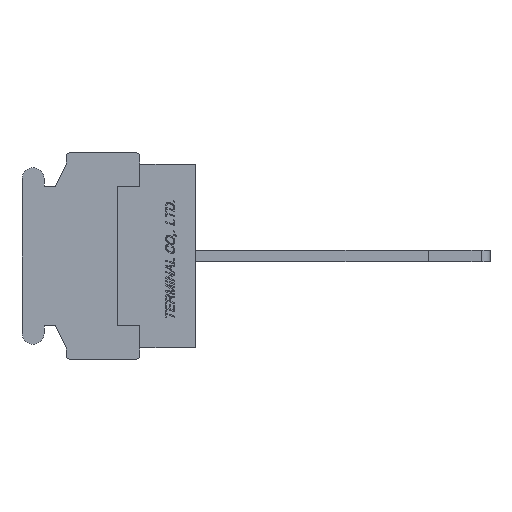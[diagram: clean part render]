
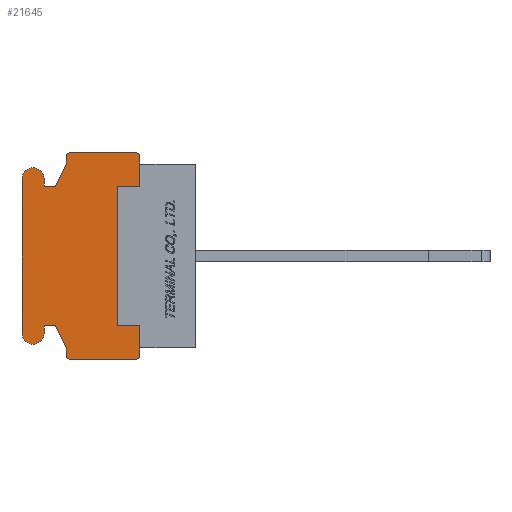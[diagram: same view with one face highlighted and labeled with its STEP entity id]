
A CAD part, left-side view. The second image highlights one B-rep face of the part: STEP entity #21645.
In plain terms, the highlighted planar face has unit normal (-1, 0, 0).
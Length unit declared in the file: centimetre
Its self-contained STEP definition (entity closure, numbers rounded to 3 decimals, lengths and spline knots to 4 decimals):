
#1114=CIRCLE('',#36409,0.02);
#1115=CIRCLE('',#36413,0.02);
#1116=CIRCLE('',#36416,0.02);
#1117=CIRCLE('',#36422,0.075);
#1118=CIRCLE('',#36425,0.075);
#1119=CIRCLE('',#36431,0.02);
#2934=VERTEX_POINT('',#33503);
#2935=VERTEX_POINT('',#33505);
#2936=VERTEX_POINT('',#33509);
#2937=VERTEX_POINT('',#33513);
#2938=VERTEX_POINT('',#33515);
#2939=VERTEX_POINT('',#33519);
#2940=VERTEX_POINT('',#33523);
#2941=VERTEX_POINT('',#33527);
#2942=VERTEX_POINT('',#33531);
#2943=VERTEX_POINT('',#33535);
#2944=VERTEX_POINT('',#33539);
#2945=VERTEX_POINT('',#33543);
#2946=VERTEX_POINT('',#33547);
#2947=VERTEX_POINT('',#33551);
#2948=VERTEX_POINT('',#33555);
#2949=VERTEX_POINT('',#33559);
#2950=VERTEX_POINT('',#33563);
#2951=VERTEX_POINT('',#33567);
#2952=VERTEX_POINT('',#33571);
#2953=VERTEX_POINT('',#33575);
#2954=VERTEX_POINT('',#33581);
#2955=VERTEX_POINT('',#33583);
#2956=VERTEX_POINT('',#33585);
#2957=VERTEX_POINT('',#33587);
#5280=VECTOR('',#26617,1.);
#5282=VECTOR('',#26620,1.);
#5286=VECTOR('',#26629,1.);
#5289=VECTOR('',#26637,1.);
#5291=VECTOR('',#26640,1.);
#5293=VECTOR('',#26643,1.);
#5295=VECTOR('',#26646,1.);
#5298=VECTOR('',#26654,1.);
#5301=VECTOR('',#26662,1.);
#5303=VECTOR('',#26665,1.);
#5305=VECTOR('',#26668,1.);
#5307=VECTOR('',#26671,1.);
#5309=VECTOR('',#26678,1.);
#5310=VECTOR('',#26680,1.);
#5311=VECTOR('',#26681,1.);
#5312=VECTOR('',#26682,1.);
#5313=VECTOR('',#26683,1.);
#5314=VECTOR('',#26684,1.);
#7704=LINE('',#33510,#5280);
#7706=LINE('',#33514,#5282);
#7710=LINE('',#33524,#5286);
#7713=LINE('',#33532,#5289);
#7715=LINE('',#33536,#5291);
#7717=LINE('',#33540,#5293);
#7719=LINE('',#33544,#5295);
#7722=LINE('',#33552,#5298);
#7725=LINE('',#33560,#5301);
#7727=LINE('',#33564,#5303);
#7729=LINE('',#33568,#5305);
#7731=LINE('',#33572,#5307);
#7733=LINE('',#33578,#5309);
#7734=LINE('',#33580,#5310);
#7735=LINE('',#33582,#5311);
#7736=LINE('',#33584,#5312);
#7737=LINE('',#33586,#5313);
#7738=LINE('',#33588,#5314);
#10880=EDGE_CURVE('',#2934,#2935,#1114,.T.);
#10883=EDGE_CURVE('',#2936,#2934,#7704,.T.);
#10885=EDGE_CURVE('',#2937,#2938,#7706,.T.);
#10888=EDGE_CURVE('',#2939,#2937,#1115,.T.);
#10890=EDGE_CURVE('',#2940,#2939,#7710,.T.);
#10892=EDGE_CURVE('',#2941,#2940,#1116,.T.);
#10894=EDGE_CURVE('',#2942,#2941,#7713,.T.);
#10896=EDGE_CURVE('',#2943,#2942,#7715,.T.);
#10898=EDGE_CURVE('',#2944,#2943,#7717,.T.);
#10900=EDGE_CURVE('',#2945,#2944,#7719,.T.);
#10902=EDGE_CURVE('',#2946,#2945,#1117,.T.);
#10904=EDGE_CURVE('',#2947,#2946,#7722,.T.);
#10906=EDGE_CURVE('',#2948,#2947,#1118,.T.);
#10908=EDGE_CURVE('',#2949,#2948,#7725,.T.);
#10910=EDGE_CURVE('',#2950,#2949,#7727,.T.);
#10912=EDGE_CURVE('',#2951,#2950,#7729,.T.);
#10914=EDGE_CURVE('',#2952,#2951,#7731,.T.);
#10916=EDGE_CURVE('',#2953,#2952,#1119,.T.);
#10917=EDGE_CURVE('',#2935,#2953,#7733,.T.);
#10918=EDGE_CURVE('',#2954,#2938,#7734,.T.);
#10919=EDGE_CURVE('',#2936,#2955,#7735,.T.);
#10920=EDGE_CURVE('',#2955,#2956,#7736,.T.);
#10921=EDGE_CURVE('',#2956,#2957,#7737,.T.);
#10922=EDGE_CURVE('',#2957,#2954,#7738,.T.);
#16902=ORIENTED_EDGE('',*,*,#10918,.T.);
#16903=ORIENTED_EDGE('',*,*,#10885,.F.);
#16904=ORIENTED_EDGE('',*,*,#10888,.F.);
#16905=ORIENTED_EDGE('',*,*,#10890,.F.);
#16906=ORIENTED_EDGE('',*,*,#10892,.F.);
#16907=ORIENTED_EDGE('',*,*,#10894,.F.);
#16908=ORIENTED_EDGE('',*,*,#10896,.F.);
#16909=ORIENTED_EDGE('',*,*,#10898,.F.);
#16910=ORIENTED_EDGE('',*,*,#10900,.F.);
#16911=ORIENTED_EDGE('',*,*,#10902,.F.);
#16912=ORIENTED_EDGE('',*,*,#10904,.F.);
#16913=ORIENTED_EDGE('',*,*,#10906,.F.);
#16914=ORIENTED_EDGE('',*,*,#10908,.F.);
#16915=ORIENTED_EDGE('',*,*,#10910,.F.);
#16916=ORIENTED_EDGE('',*,*,#10912,.F.);
#16917=ORIENTED_EDGE('',*,*,#10914,.F.);
#16918=ORIENTED_EDGE('',*,*,#10916,.F.);
#16919=ORIENTED_EDGE('',*,*,#10917,.F.);
#16920=ORIENTED_EDGE('',*,*,#10880,.F.);
#16921=ORIENTED_EDGE('',*,*,#10883,.F.);
#16922=ORIENTED_EDGE('',*,*,#10919,.T.);
#16923=ORIENTED_EDGE('',*,*,#10920,.T.);
#16924=ORIENTED_EDGE('',*,*,#10921,.T.);
#16925=ORIENTED_EDGE('',*,*,#10922,.T.);
#19094=EDGE_LOOP('',(#16902,#16903,#16904,#16905,#16906,#16907,#16908,#16909,
#16910,#16911,#16912,#16913,#16914,#16915,#16916,#16917,#16918,#16919,#16920,
#16921,#16922,#16923,#16924,#16925));
#20404=FACE_BOUND('',#19094,.T.);
#21645=ADVANCED_FACE('',(#20404),#22566,.F.);
#22566=PLANE('',#36433);
#26612=DIRECTION('',(1.,0.,0.));
#26613=DIRECTION('',(0.,0.,-0.02));
#26617=DIRECTION('',(0.,0.,-1.));
#26620=DIRECTION('',(0.,0.,-1.));
#26625=DIRECTION('',(1.,0.,0.));
#26626=DIRECTION('',(0.,0.,-0.02));
#26629=DIRECTION('',(0.,-1.,0.));
#26633=DIRECTION('',(1.,0.,0.));
#26634=DIRECTION('',(0.,0.,-0.02));
#26637=DIRECTION('',(0.,0.,1.));
#26640=DIRECTION('',(0.,-0.447,0.894));
#26643=DIRECTION('',(0.,-1.,0.));
#26646=DIRECTION('',(0.,0.,-1.));
#26650=DIRECTION('',(1.,0.,0.));
#26651=DIRECTION('',(0.,0.,-0.075));
#26654=DIRECTION('',(0.,0.,1.));
#26658=DIRECTION('',(1.,0.,0.));
#26659=DIRECTION('',(0.,0.,-0.075));
#26662=DIRECTION('',(0.,0.,-1.));
#26665=DIRECTION('',(0.,1.,0.));
#26668=DIRECTION('',(0.,0.447,0.894));
#26671=DIRECTION('',(0.,0.,1.));
#26675=DIRECTION('',(1.,0.,0.));
#26676=DIRECTION('',(0.,0.,-0.02));
#26678=DIRECTION('',(0.,1.,0.));
#26679=DIRECTION('',(1.,0.,0.));
#26680=DIRECTION('',(0.,0.,1.));
#26681=DIRECTION('',(0.,0.,1.));
#26682=DIRECTION('',(0.,1.,0.));
#26683=DIRECTION('',(0.,0.,1.));
#26684=DIRECTION('',(0.,-1.,0.));
#33503=CARTESIAN_POINT('',(-0.762,0.38,-0.68));
#33504=CARTESIAN_POINT('',(-0.762,0.4,-0.68));
#33505=CARTESIAN_POINT('',(-0.762,0.4,-0.7));
#33509=CARTESIAN_POINT('',(-0.762,0.38,-0.625));
#33510=CARTESIAN_POINT('',(-0.762,0.38,-0.625));
#33513=CARTESIAN_POINT('',(-0.762,0.38,0.68));
#33514=CARTESIAN_POINT('',(-0.762,0.38,0.68));
#33515=CARTESIAN_POINT('',(-0.762,0.38,0.625));
#33519=CARTESIAN_POINT('',(-0.762,0.4,0.7));
#33520=CARTESIAN_POINT('',(-0.762,0.4,0.68));
#33523=CARTESIAN_POINT('',(-0.762,0.86,0.7));
#33524=CARTESIAN_POINT('',(-0.762,0.86,0.7));
#33527=CARTESIAN_POINT('',(-0.762,0.88,0.68));
#33528=CARTESIAN_POINT('',(-0.762,0.86,0.68));
#33531=CARTESIAN_POINT('',(-0.762,0.88,0.625));
#33532=CARTESIAN_POINT('',(-0.762,0.88,0.625));
#33535=CARTESIAN_POINT('',(-0.762,0.955,0.475));
#33536=CARTESIAN_POINT('',(-0.762,0.955,0.475));
#33539=CARTESIAN_POINT('',(-0.762,1.03,0.475));
#33540=CARTESIAN_POINT('',(-0.762,1.03,0.475));
#33543=CARTESIAN_POINT('',(-0.762,1.03,0.525));
#33544=CARTESIAN_POINT('',(-0.762,1.03,0.525));
#33547=CARTESIAN_POINT('',(-0.762,1.18,0.525));
#33548=CARTESIAN_POINT('',(-0.762,1.105,0.525));
#33551=CARTESIAN_POINT('',(-0.762,1.18,-0.525));
#33552=CARTESIAN_POINT('',(-0.762,1.18,-0.525));
#33555=CARTESIAN_POINT('',(-0.762,1.03,-0.525));
#33556=CARTESIAN_POINT('',(-0.762,1.105,-0.525));
#33559=CARTESIAN_POINT('',(-0.762,1.03,-0.475));
#33560=CARTESIAN_POINT('',(-0.762,1.03,-0.475));
#33563=CARTESIAN_POINT('',(-0.762,0.955,-0.475));
#33564=CARTESIAN_POINT('',(-0.762,0.955,-0.475));
#33567=CARTESIAN_POINT('',(-0.762,0.88,-0.625));
#33568=CARTESIAN_POINT('',(-0.762,0.88,-0.625));
#33571=CARTESIAN_POINT('',(-0.762,0.88,-0.68));
#33572=CARTESIAN_POINT('',(-0.762,0.88,-0.68));
#33575=CARTESIAN_POINT('',(-0.762,0.86,-0.7));
#33576=CARTESIAN_POINT('',(-0.762,0.86,-0.68));
#33578=CARTESIAN_POINT('',(-0.762,0.4,-0.7));
#33579=CARTESIAN_POINT('',(-0.762,0.6059,0.));
#33580=CARTESIAN_POINT('',(-0.762,0.38,0.475));
#33581=CARTESIAN_POINT('',(-0.762,0.38,0.475));
#33582=CARTESIAN_POINT('',(-0.762,0.38,-0.625));
#33583=CARTESIAN_POINT('',(-0.762,0.38,-0.475));
#33584=CARTESIAN_POINT('',(-0.762,0.38,-0.475));
#33585=CARTESIAN_POINT('',(-0.762,0.53,-0.475));
#33586=CARTESIAN_POINT('',(-0.762,0.53,-0.475));
#33587=CARTESIAN_POINT('',(-0.762,0.53,0.475));
#33588=CARTESIAN_POINT('',(-0.762,0.53,0.475));
#36409=AXIS2_PLACEMENT_3D('',#33504,#26612,#26613);
#36413=AXIS2_PLACEMENT_3D('',#33520,#26625,#26626);
#36416=AXIS2_PLACEMENT_3D('',#33528,#26633,#26634);
#36422=AXIS2_PLACEMENT_3D('',#33548,#26650,#26651);
#36425=AXIS2_PLACEMENT_3D('',#33556,#26658,#26659);
#36431=AXIS2_PLACEMENT_3D('',#33576,#26675,#26676);
#36433=AXIS2_PLACEMENT_3D('',#33579,#26679,$);
